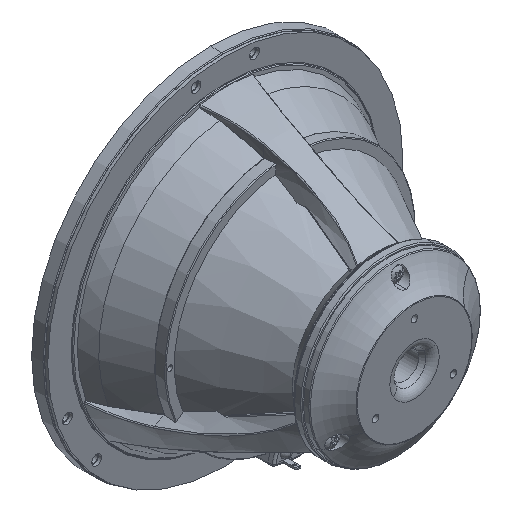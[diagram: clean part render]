
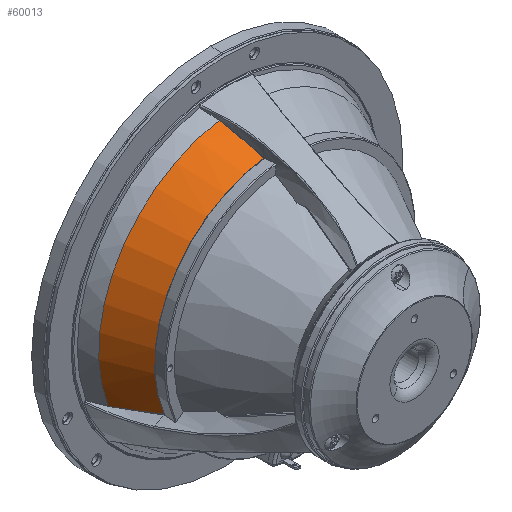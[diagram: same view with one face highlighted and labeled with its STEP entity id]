
A CAD part, isometric view. The second image highlights one B-rep face of the part: STEP entity #60013.
In plain terms, the highlighted conical face has half-angle 27.925 degrees and reference radius 73.186 mm.
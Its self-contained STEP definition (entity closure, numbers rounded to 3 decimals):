
#3222 = CARTESIAN_POINT ( 'NONE',  ( -68.234, 39.371, -26.464 ) ) ;
#3422 = ORIENTED_EDGE ( 'NONE', *, *, #25441, .T. ) ;
#3431 = VERTEX_POINT ( 'NONE', #63026 ) ;
#3876 = CARTESIAN_POINT ( 'NONE',  ( -59.496, 24.228, -26.571 ) ) ;
#3955 = CONICAL_SURFACE ( 'NONE', #32063, 73.186, 0.487 ) ;
#4135 = CARTESIAN_POINT ( 'NONE',  ( 0., 39.371, 0. ) ) ;
#5861 = ORIENTED_EDGE ( 'NONE', *, *, #59625, .T. ) ;
#6695 = CARTESIAN_POINT ( 'NONE',  ( -9.14, 31.532, 68.423 ) ) ;
#8590 = AXIS2_PLACEMENT_3D ( 'NONE', #66266, #33852, #59581 ) ;
#8993 = CARTESIAN_POINT ( 'NONE',  ( -63.826, 31.532, -26.296 ) ) ;
#9329 = CARTESIAN_POINT ( 'NONE',  ( -63.023, 30.165, -26.342 ) ) ;
#9777 = CARTESIAN_POINT ( 'NONE',  ( -8.612, 29.974, 67.66 ) ) ;
#9812 = ORIENTED_EDGE ( 'NONE', *, *, #45972, .T. ) ;
#9840 = CARTESIAN_POINT ( 'NONE',  ( -11.198, 39.371, 72.324 ) ) ;
#9953 = CARTESIAN_POINT ( 'NONE',  ( -57.256, 20., -26.086 ) ) ;
#10446 = CARTESIAN_POINT ( 'NONE',  ( -6.037, 20., 62.629 ) ) ;
#11428 = CARTESIAN_POINT ( 'NONE',  ( -9.962, 34.692, 70.001 ) ) ;
#11748 = CARTESIAN_POINT ( 'NONE',  ( -9.251, 31.925, 68.619 ) ) ;
#13436 = CARTESIAN_POINT ( 'NONE',  ( -11.198, 39.371, 72.324 ) ) ;
#13699 = CARTESIAN_POINT ( 'NONE',  ( -58.133, 21.695, -26.329 ) ) ;
#14361 = CARTESIAN_POINT ( 'NONE',  ( -59.035, 23.384, -26.506 ) ) ;
#14511 = B_SPLINE_CURVE_WITH_KNOTS ( 'NONE', 3,
 ( #9840, #24747, #51197, #62024 ),
 .UNSPECIFIED., .F., .F.,
 ( 4, 4 ),
 ( 0., 0.005 ),
 .UNSPECIFIED. ) ;
#14589 = EDGE_CURVE ( 'NONE', #17340, #3431, #42567, .T. ) ;
#14626 = DIRECTION ( 'NONE',  ( 0., 1., 0. ) ) ;
#16540 = CARTESIAN_POINT ( 'NONE',  ( -8.767, 30.358, 67.845 ) ) ;
#16779 = B_SPLINE_CURVE_WITH_KNOTS ( 'NONE', 3,
 ( #42311, #22590, #16540, #33105, #53114, #6695, #11748, #43301, #57857, #11428 ),
 .UNSPECIFIED., .F., .F.,
 ( 4, 2, 2, 2, 4 ),
 ( 0., 0.001, 0.001, 0.003, 0.005 ),
 .UNSPECIFIED. ) ;
#17114 = EDGE_CURVE ( 'NONE', #17340, #39924, #50499, .T. ) ;
#17340 = VERTEX_POINT ( 'NONE', #49502 ) ;
#19160 = CARTESIAN_POINT ( 'NONE',  ( -64.051, 31.925, -26.297 ) ) ;
#22590 = CARTESIAN_POINT ( 'NONE',  ( -8.698, 30.164, 67.75 ) ) ;
#23273 = ORIENTED_EDGE ( 'NONE', *, *, #14589, .T. ) ;
#23755 = CARTESIAN_POINT ( 'NONE',  ( -9.962, 34.692, 70.001 ) ) ;
#24532 = CARTESIAN_POINT ( 'NONE',  ( -61.878, 28.378, -26.624 ) ) ;
#24747 = CARTESIAN_POINT ( 'NONE',  ( -10.737, 37.814, 71.561 ) ) ;
#25013 = CARTESIAN_POINT ( 'NONE',  ( -7.927, 28.35, 66.877 ) ) ;
#25075 = VERTEX_POINT ( 'NONE', #39354 ) ;
#25441 = EDGE_CURVE ( 'NONE', #29038, #25075, #67014, .T. ) ;
#25445 = B_SPLINE_CURVE_WITH_KNOTS ( 'NONE', 3,
 ( #65204, #24532, #39784, #3876, #14361, #13699, #55716, #9953 ),
 .UNSPECIFIED., .F., .F.,
 ( 4, 2, 2, 4 ),
 ( 0.009, 0.015, 0.018, 0.021 ),
 .UNSPECIFIED. ) ;
#25667 = B_SPLINE_CURVE_WITH_KNOTS ( 'NONE', 3,
 ( #10446, #55889, #45386, #61288, #46056, #25013, #51795, #9777 ),
 .UNSPECIFIED., .F., .F.,
 ( 4, 2, 2, 4 ),
 ( 0., 0.006, 0.009, 0.011 ),
 .UNSPECIFIED. ) ;
#28782 = VERTEX_POINT ( 'NONE', #13436 ) ;
#29038 = VERTEX_POINT ( 'NONE', #48963 ) ;
#29535 = ORIENTED_EDGE ( 'NONE', *, *, #30269, .F. ) ;
#30269 = EDGE_CURVE ( 'NONE', #28782, #65745, #14511, .T. ) ;
#31894 = EDGE_CURVE ( 'NONE', #45312, #65745, #16779, .T. ) ;
#32063 = AXIS2_PLACEMENT_3D ( 'NONE', #4135, #14626, #44834 ) ;
#32422 = CARTESIAN_POINT ( 'NONE',  ( 0., 39.371, 0. ) ) ;
#33105 = CARTESIAN_POINT ( 'NONE',  ( -8.899, 30.747, 68.036 ) ) ;
#33852 = DIRECTION ( 'NONE',  ( 0., 1., 0. ) ) ;
#35182 = CARTESIAN_POINT ( 'NONE',  ( -8.612, 29.974, 67.66 ) ) ;
#35747 = CARTESIAN_POINT ( 'NONE',  ( -63.14, 30.359, -26.33 ) ) ;
#36529 = DIRECTION ( 'NONE',  ( 0., 1., 0. ) ) ;
#39354 = CARTESIAN_POINT ( 'NONE',  ( -6.037, 20., 62.629 ) ) ;
#39600 = EDGE_LOOP ( 'NONE', ( #29535, #55013, #40743, #23273, #9812, #3422, #5861, #40685 ) ) ;
#39784 = CARTESIAN_POINT ( 'NONE',  ( -60.905, 26.736, -26.674 ) ) ;
#39924 = VERTEX_POINT ( 'NONE', #51957 ) ;
#40402 = FACE_OUTER_BOUND ( 'NONE', #39600, .T. ) ;
#40685 = ORIENTED_EDGE ( 'NONE', *, *, #31894, .T. ) ;
#40743 = ORIENTED_EDGE ( 'NONE', *, *, #17114, .F. ) ;
#42311 = CARTESIAN_POINT ( 'NONE',  ( -8.612, 29.974, 67.66 ) ) ;
#42492 = AXIS2_PLACEMENT_3D ( 'NONE', #32422, #36529, #53430 ) ;
#42567 = B_SPLINE_CURVE_WITH_KNOTS ( 'NONE', 3,
 ( #66572, #61489, #55431, #19160, #8993, #56418, #55760, #35747, #9329, #45602 ),
 .UNSPECIFIED., .F., .F.,
 ( 4, 2, 2, 2, 4 ),
 ( 0., 0.003, 0.004, 0.005, 0.005 ),
 .UNSPECIFIED. ) ;
#43301 = CARTESIAN_POINT ( 'NONE',  ( -9.575, 33.108, 69.207 ) ) ;
#44834 = DIRECTION ( 'NONE',  ( 0., 0., 1. ) ) ;
#45312 = VERTEX_POINT ( 'NONE', #35182 ) ;
#45386 = CARTESIAN_POINT ( 'NONE',  ( -6.531, 23.381, 64.382 ) ) ;
#45602 = CARTESIAN_POINT ( 'NONE',  ( -62.901, 29.974, -26.372 ) ) ;
#45972 = EDGE_CURVE ( 'NONE', #3431, #29038, #25445, .T. ) ;
#46056 = CARTESIAN_POINT ( 'NONE',  ( -7.376, 26.707, 66.064 ) ) ;
#48963 = CARTESIAN_POINT ( 'NONE',  ( -57.256, 20., -26.086 ) ) ;
#49502 = CARTESIAN_POINT ( 'NONE',  ( -65.603, 34.692, -26.373 ) ) ;
#49659 = CARTESIAN_POINT ( 'NONE',  ( -65.603, 34.692, -26.373 ) ) ;
#50499 = B_SPLINE_CURVE_WITH_KNOTS ( 'NONE', 3,
 ( #49659, #62401, #60139, #3222 ),
 .UNSPECIFIED., .F., .F.,
 ( 4, 4 ),
 ( 0.014, 0.019 ),
 .UNSPECIFIED. ) ;
#51197 = CARTESIAN_POINT ( 'NONE',  ( -10.325, 36.255, 70.786 ) ) ;
#51795 = CARTESIAN_POINT ( 'NONE',  ( -8.242, 29.166, 67.275 ) ) ;
#51957 = CARTESIAN_POINT ( 'NONE',  ( -68.234, 39.371, -26.464 ) ) ;
#53114 = CARTESIAN_POINT ( 'NONE',  ( -8.961, 30.943, 68.132 ) ) ;
#53430 = DIRECTION ( 'NONE',  ( 0., 0., 1. ) ) ;
#54360 = CIRCLE ( 'NONE', #42492, 73.186 ) ;
#55013 = ORIENTED_EDGE ( 'NONE', *, *, #55347, .F. ) ;
#55347 = EDGE_CURVE ( 'NONE', #39924, #28782, #54360, .T. ) ;
#55431 = CARTESIAN_POINT ( 'NONE',  ( -64.723, 33.107, -26.312 ) ) ;
#55716 = CARTESIAN_POINT ( 'NONE',  ( -57.691, 20.848, -26.217 ) ) ;
#55760 = CARTESIAN_POINT ( 'NONE',  ( -63.371, 30.748, -26.311 ) ) ;
#55889 = CARTESIAN_POINT ( 'NONE',  ( -6.246, 21.697, 63.512 ) ) ;
#56418 = CARTESIAN_POINT ( 'NONE',  ( -63.485, 30.944, -26.306 ) ) ;
#57857 = CARTESIAN_POINT ( 'NONE',  ( -9.777, 33.898, 69.602 ) ) ;
#59581 = DIRECTION ( 'NONE',  ( 0., 0., 1. ) ) ;
#59625 = EDGE_CURVE ( 'NONE', #25075, #45312, #25667, .T. ) ;
#60013 = ADVANCED_FACE ( 'NONE', ( #40402 ), #3955, .T. ) ;
#60139 = CARTESIAN_POINT ( 'NONE',  ( -67.342, 37.814, -26.482 ) ) ;
#61288 = CARTESIAN_POINT ( 'NONE',  ( -7.141, 25.879, 65.648 ) ) ;
#61489 = CARTESIAN_POINT ( 'NONE',  ( -65.166, 33.898, -26.334 ) ) ;
#62024 = CARTESIAN_POINT ( 'NONE',  ( -9.962, 34.692, 70.001 ) ) ;
#62401 = CARTESIAN_POINT ( 'NONE',  ( -66.465, 36.255, -26.451 ) ) ;
#63026 = CARTESIAN_POINT ( 'NONE',  ( -62.901, 29.974, -26.372 ) ) ;
#65204 = CARTESIAN_POINT ( 'NONE',  ( -62.901, 29.974, -26.372 ) ) ;
#65745 = VERTEX_POINT ( 'NONE', #23755 ) ;
#66266 = CARTESIAN_POINT ( 'NONE',  ( 0., 20., 0. ) ) ;
#66572 = CARTESIAN_POINT ( 'NONE',  ( -65.603, 34.692, -26.373 ) ) ;
#67014 = CIRCLE ( 'NONE', #8590, 62.919 ) ;
